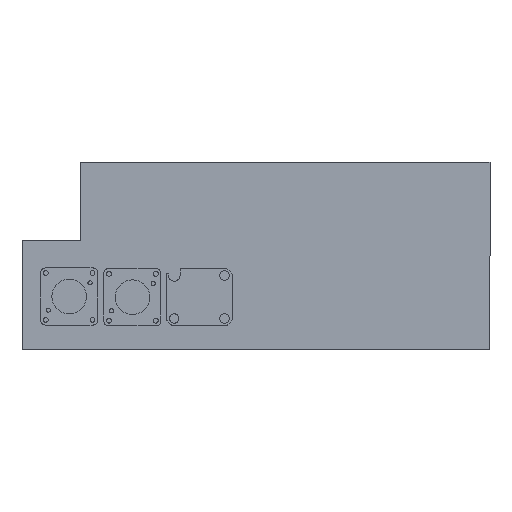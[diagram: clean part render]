
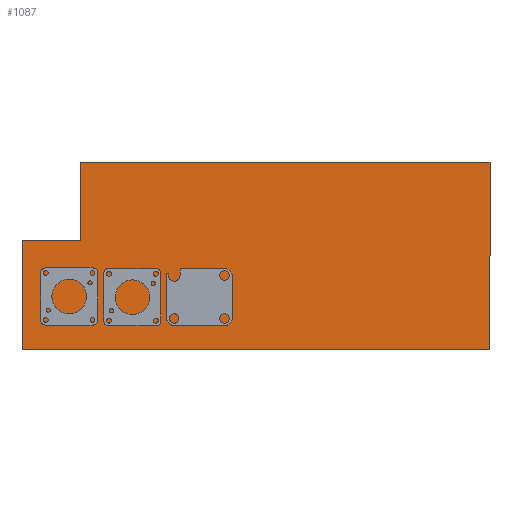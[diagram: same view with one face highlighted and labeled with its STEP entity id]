
A CAD part, top view. The second image highlights one B-rep face of the part: STEP entity #1087.
In plain terms, the highlighted planar face has unit normal (0, 0, 1).
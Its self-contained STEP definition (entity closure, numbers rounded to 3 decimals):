
#88=PLANE('',#1210);
#129=FACE_OUTER_BOUND('',#202,.T.);
#202=EDGE_LOOP('',(#851,#852,#853,#854,#855,#856));
#272=LINE('',#1744,#363);
#276=LINE('',#1752,#367);
#279=LINE('',#1758,#370);
#282=LINE('',#1764,#373);
#285=LINE('',#1770,#376);
#288=LINE('',#1775,#379);
#363=VECTOR('',#1404,10.);
#367=VECTOR('',#1410,10.);
#370=VECTOR('',#1415,10.);
#373=VECTOR('',#1420,10.);
#376=VECTOR('',#1425,10.);
#379=VECTOR('',#1430,10.);
#519=VERTEX_POINT('',#1742);
#520=VERTEX_POINT('',#1743);
#523=VERTEX_POINT('',#1751);
#525=VERTEX_POINT('',#1757);
#527=VERTEX_POINT('',#1763);
#529=VERTEX_POINT('',#1769);
#633=EDGE_CURVE('',#519,#520,#272,.T.);
#637=EDGE_CURVE('',#520,#523,#276,.T.);
#640=EDGE_CURVE('',#525,#523,#279,.T.);
#643=EDGE_CURVE('',#525,#527,#282,.T.);
#646=EDGE_CURVE('',#527,#529,#285,.T.);
#649=EDGE_CURVE('',#529,#519,#288,.T.);
#851=ORIENTED_EDGE('',*,*,#649,.T.);
#852=ORIENTED_EDGE('',*,*,#633,.T.);
#853=ORIENTED_EDGE('',*,*,#637,.T.);
#854=ORIENTED_EDGE('',*,*,#640,.F.);
#855=ORIENTED_EDGE('',*,*,#643,.T.);
#856=ORIENTED_EDGE('',*,*,#646,.T.);
#1087=ADVANCED_FACE('',(#129),#88,.T.);
#1210=AXIS2_PLACEMENT_3D('',#1777,#1432,#1433);
#1404=DIRECTION('',(0.,1.,0.));
#1410=DIRECTION('',(-1.,0.,0.));
#1415=DIRECTION('',(0.,1.,0.));
#1420=DIRECTION('',(-1.,0.,0.));
#1425=DIRECTION('',(0.,-1.,0.));
#1430=DIRECTION('',(1.,0.,0.));
#1432=DIRECTION('center_axis',(0.,0.,1.));
#1433=DIRECTION('ref_axis',(1.,0.,0.));
#1742=CARTESIAN_POINT('',(500.,0.,0.));
#1743=CARTESIAN_POINT('',(500.,200.,0.));
#1744=CARTESIAN_POINT('',(500.,0.,0.));
#1751=CARTESIAN_POINT('',(63.,200.,0.));
#1752=CARTESIAN_POINT('',(500.,200.,0.));
#1757=CARTESIAN_POINT('',(63.,117.,0.));
#1758=CARTESIAN_POINT('',(63.,117.,0.));
#1763=CARTESIAN_POINT('',(0.,117.,0.));
#1764=CARTESIAN_POINT('',(63.,117.,0.));
#1769=CARTESIAN_POINT('',(0.,0.,0.));
#1770=CARTESIAN_POINT('',(0.,117.,0.));
#1775=CARTESIAN_POINT('',(0.,0.,0.));
#1777=CARTESIAN_POINT('Origin',(250.,100.,0.));
